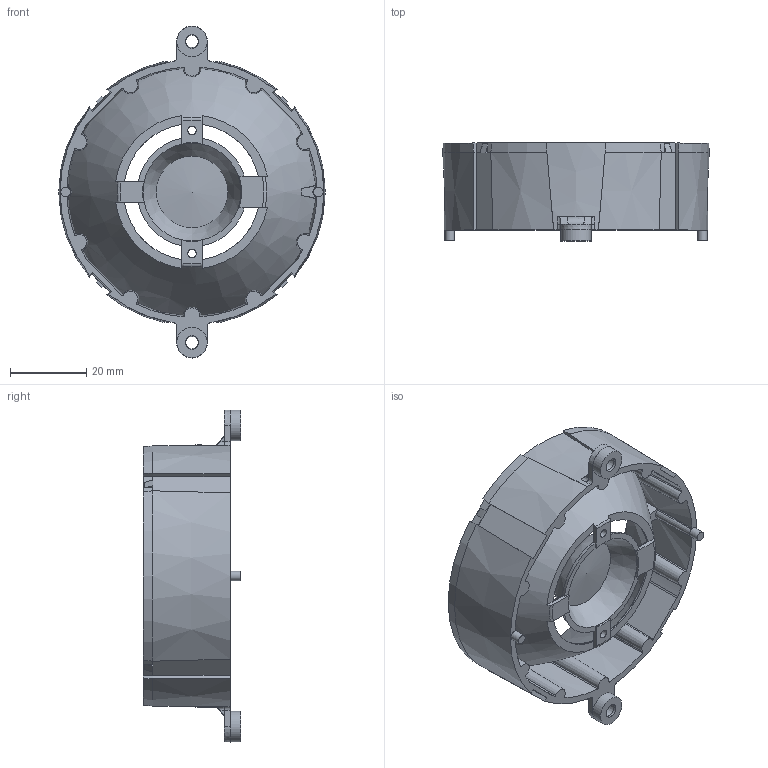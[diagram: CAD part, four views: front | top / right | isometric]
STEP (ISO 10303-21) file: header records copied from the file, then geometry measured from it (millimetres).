
FILE_DESCRIPTION( ( 'STEP AP214' ), '1' );
FILE_NAME( ' ', ' ', ( ' ' ), ( ' ' ), 'PSStep 10.0', ' ', ' ' );
FILE_SCHEMA( ( 'automotive_design' ) );
Length unit declared in the file: millimetre
Products named in the file (1): 1
Bounding box: 69.91 x 25.62 x 87.1 mm (x, y, z)
Volume: 23906.4 mm3; surface area: 20693.4 mm2
Topology: 1 solids, 2 shells, 290 faces, 798 edges, 510 vertices
Faces by surface type: plane 151, cone 58, bspline 40, cylinder 31, torus 6, revolution 4
Full cylindrical faces by diameter (mm): 2.2 x2, 2.488 x2, 3.577 x2, 7.96 x2
Entity records: 16412 total; most frequent: CARTESIAN_POINT 7347, ORIENTED_EDGE 1554, DIRECTION 1177, EDGE_CURVE 777, VERTEX_POINT 505, AXIS2_PLACEMENT_3D 435, EDGE_LOOP 319, LINE 303
